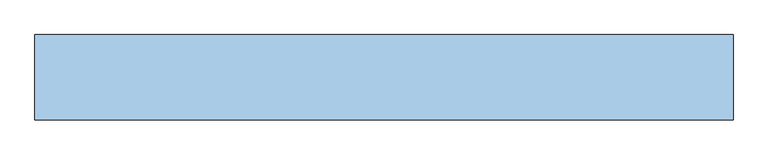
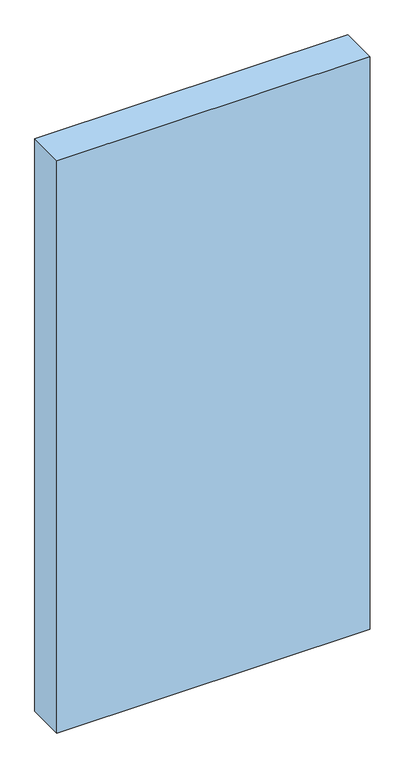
"""IFC4 building model written with IfcOpenShell, lengths in millimetres: window geometry, Dr_Проем-Четверти_об модель : ОК."""

from ifc_helpers import new_model, si_unit, origin, origin_with_axes, place, context, project, spatial, polyline, outline, extrude, source, transform, mapped, element, save


def window_7dbd4b1c(model_context):
    return source(origin(), model_context, "Body", "SweptSolid", [
        extrude(outline(polyline([(955.0, 100.0), (955.0, -100.0), (-685.0, -100.0), (-685.0, 100.0), (955.0, 100.0)])), origin_with_axes(), (0.0, 0.0, 1.0), 3170.0),
    ])


if __name__ == "__main__":
    model = new_model("IFC4")
    model_context = context("Model", 3, world=origin())
    ifc_project = project(units=[si_unit("LENGTHUNIT", "METRE", prefix="MILLI")], contexts=[model_context])
    site = spatial("IfcSite", under=ifc_project)
    building = spatial("IfcBuilding", under=site)
    placement = place(None, origin())
    window_shape = window_7dbd4b1c(model_context)
    element("IfcWindow", 1, ObjectType="Dr_Проем-Четверти_об модель : ОК", at=placement, inside=building, context=model_context, shape_type="MappedRepresentation", body=[
        mapped(window_shape, transform((0.0, 0.0, 0.0), x_axis=(1.0, 0.0, 0.0), y_axis=(0.0, 1.0, 0.0), z_axis=(0.0, 0.0, 1.0))),
    ])
    save(model, "model.ifc")
